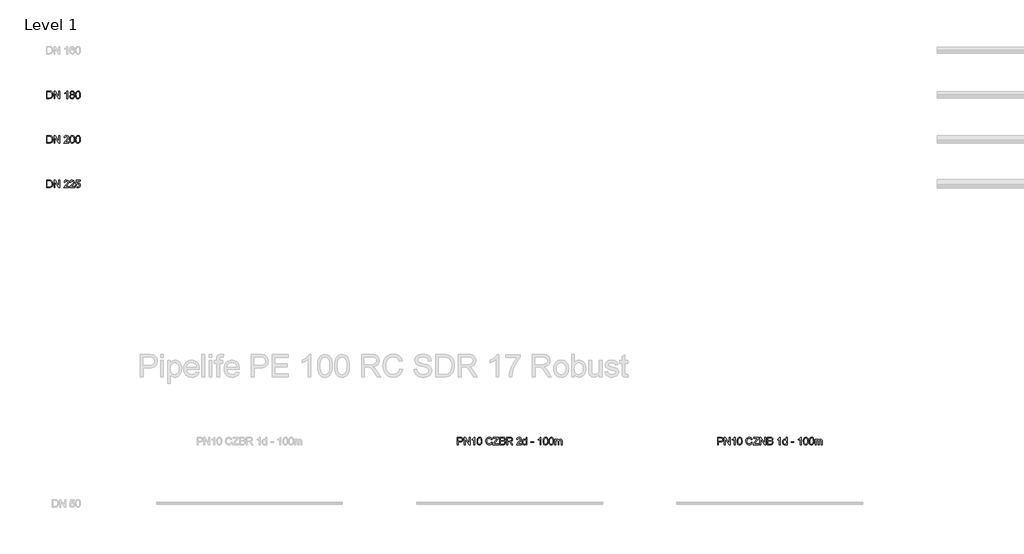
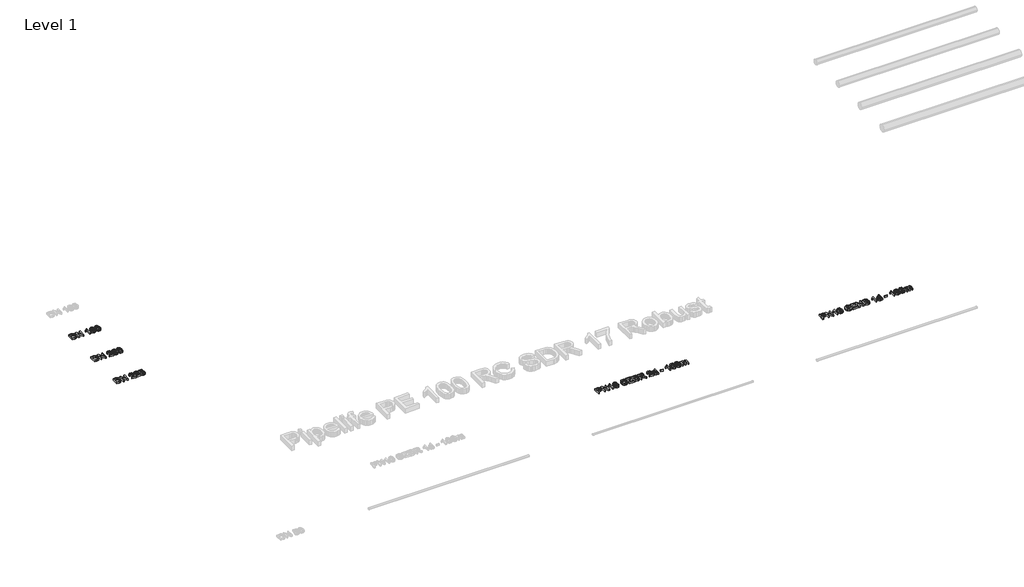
# One storey, part 5 of 13: 5 proxies.
"""IFC4 building model written with IfcOpenShell, lengths in millimetres."""

from ifc_helpers import new_model, si_unit, origin, origin_with_axes, place, context, project, spatial, polyline, outline, extrude, element, save

model = new_model("IFC4")

# Units and contexts
model_context = context("Model", 3, world=origin())
ifc_project = project(units=[si_unit("LENGTHUNIT", "METRE", prefix="MILLI")], contexts=[model_context])

# Site, building, storey
site = spatial("IfcSite", under=ifc_project)
building = spatial("IfcBuilding", under=site)
storey = spatial("IfcBuildingStorey", under=building, Name="Level 1", Elevation=0.0)

# Proxies
placement = place(None, origin())
element("IfcBuildingElementProxy", 1, Name="200mm Arial", ObjectType="200mm Arial", at=placement, inside=storey, context=model_context, shape_type="SweptSolid", body=[
    extrude(outline(polyline([(-19491.3116028, -12713.949573), (-19491.3116028, -12513.0369527), (-19422.0026349, -12513.0369527), (-19386.1464031, -12515.9309577), (-19370.1312736, -12521.5105013), (-19356.6177416, -12530.302881), (-19342.724065, -12545.606772), (-19332.8280393, -12564.6385338), (-19326.9051392, -12587.0302846), (-19324.9308391, -12612.4141423), (-19330.2773908, -12652.9547382), (-19344.0116519, -12682.2136195), (-19362.3567008, -12700.436041), (-19386.3671323, -12710.5160077), (-19418.6671715, -12713.949573), (-19491.3116028, -12713.949573)]), holes=[polyline([(-19466.1975253, -12688.8354954), (-19421.7573803, -12688.8354954), (-19389.4328156, -12685.2057264), (-19370.7934612, -12674.9540815), (-19362.0685265, -12664.0831685), (-19355.5140957, -12650.0116822), (-19351.4122114, -12632.6783089), (-19350.0449167, -12612.0217348), (-19352.7243239, -12584.6513144), (-19360.7625455, -12564.4423301), (-19372.6390025, -12550.5609162), (-19386.8331162, -12542.1732067), (-19422.4440933, -12538.1510302), (-19466.1975253, -12538.1510302), (-19466.1975253, -12688.8354954)])]), origin_with_axes(), (0.0, 0.0, 1.0), 50.0),
    extrude(outline(polyline([(-19290.3989825, -12713.949573), (-19290.3989825, -12513.0369527), (-19263.5190714, -12513.0369527), (-19158.5500754, -12672.2072292), (-19158.5500754, -12513.0369527), (-19133.4359979, -12513.0369527), (-19133.4359979, -12713.949573), (-19160.315909, -12713.949573), (-19265.284905, -12554.7302454), (-19265.284905, -12713.949573), (-19290.3989825, -12713.949573)])), origin_with_axes(), (0.0, 0.0, 1.0), 50.0),
    extrude(outline(polyline([(-18891.7130016, -12688.8354954), (-18891.7130016, -12713.949573), (-19023.5619087, -12713.949573), (-19020.8641074, -12696.6345937), (-19005.6092673, -12669.9754118), (-18974.1676195, -12640.8636832), (-18930.806595, -12599.0232377), (-18922.6764029, -12584.6022634), (-18919.9663388, -12570.5736967), (-18922.5231187, -12557.9982638), (-18930.1934583, -12547.5442838), (-18941.9840762, -12540.4993436), (-18956.9016912, -12538.1510302), (-18972.5673328, -12540.4441613), (-18984.7380955, -12547.3235546), (-18992.5923761, -12558.2496499), (-18995.3085714, -12572.6828868), (-19020.422649, -12569.5436271), (-19014.334202, -12545.2511527), (-19001.1701579, -12527.5069778), (-18981.6172299, -12516.6544589), (-18956.3621309, -12513.0369527), (-18930.9230909, -12517.0591291), (-18911.4069511, -12529.1256586), (-18898.9909337, -12547.1518763), (-18894.8522613, -12569.0531178), (-18899.3158962, -12592.8673456), (-18914.1538033, -12617.4909138), (-18950.1326624, -12651.9001431), (-18979.0236618, -12676.0577275), (-18990.3544272, -12688.8354954), (-18891.7130016, -12688.8354954)])), origin_with_axes(), (0.0, 0.0, 1.0), 50.0),
    extrude(outline(polyline([(-18866.5989241, -12615.1119436), (-18864.7533827, -12582.9529258), (-18859.2167587, -12557.3054194), (-18850.0442343, -12537.7770168), (-18837.2909918, -12523.9753106), (-18820.8650607, -12515.7715422), (-18800.6744705, -12513.0369527), (-18785.1989013, -12514.6556334), (-18771.3420128, -12519.5116758), (-18759.7537299, -12527.4150073), (-18751.0839776, -12538.1755557), (-18739.3117537, -12567.9004209), (-18734.750017, -12615.1119436), (-18736.5771642, -12647.0870203), (-18742.058606, -12672.6732131), (-18751.1759481, -12692.2200098), (-18763.9107965, -12706.0768983), (-18780.3735158, -12714.335849), (-18800.6744705, -12717.0888326), (-18826.7695667, -12712.3063667), (-18846.5861435, -12697.9589689), (-18855.341735, -12682.8298218), (-18861.5957289, -12663.9789353), (-18866.5989241, -12615.1119436)]), holes=[polyline([(-18841.4848465, -12615.0628927), (-18838.5417906, -12654.5672876), (-18829.7126227, -12677.4311536), (-18816.5669727, -12688.3388547), (-18800.6744705, -12691.9747551), (-18784.7819683, -12688.326592), (-18771.6363184, -12677.3821026), (-18762.8071505, -12654.5059739), (-18759.8640945, -12615.0628927), (-18762.7090486, -12576.4475459), (-18771.2439109, -12553.4058703), (-18784.3650354, -12541.9647402), (-18800.9687761, -12538.1510302), (-18816.6896001, -12541.5110191), (-18829.3202152, -12551.5909857), (-18838.4436887, -12576.0674012), (-18841.4848465, -12615.0628927)])]), origin_with_axes(), (0.0, 0.0, 1.0), 50.0),
    extrude(outline(polyline([(-18712.7751992, -12615.1119436), (-18710.9296578, -12582.9529258), (-18705.3930338, -12557.3054194), (-18696.2205094, -12537.7770168), (-18683.4672669, -12523.9753106), (-18667.0413358, -12515.7715422), (-18646.8507456, -12513.0369527), (-18631.3751764, -12514.6556334), (-18617.5182879, -12519.5116758), (-18605.930005, -12527.4150073), (-18597.2602527, -12538.1755557), (-18585.4880288, -12567.9004209), (-18580.9262921, -12615.1119436), (-18582.7534393, -12647.0870203), (-18588.2348811, -12672.6732131), (-18597.3522232, -12692.2200098), (-18610.0870716, -12706.0768983), (-18626.5497909, -12714.335849), (-18646.8507456, -12717.0888326), (-18672.9458418, -12712.3063667), (-18692.7624186, -12697.9589689), (-18701.5180101, -12682.8298218), (-18707.772004, -12663.9789353), (-18712.7751992, -12615.1119436)]), holes=[polyline([(-18687.6611216, -12615.0628927), (-18684.7180657, -12654.5672876), (-18675.8888978, -12677.4311536), (-18662.7432478, -12688.3388547), (-18646.8507456, -12691.9747551), (-18630.9582434, -12688.326592), (-18617.8125935, -12677.3821026), (-18608.9834256, -12654.5059739), (-18606.0403696, -12615.0628927), (-18608.8853237, -12576.4475459), (-18617.420186, -12553.4058703), (-18630.5413105, -12541.9647402), (-18647.1450512, -12538.1510302), (-18662.8658751, -12541.5110191), (-18675.4964903, -12551.5909857), (-18684.6199638, -12576.0674012), (-18687.6611216, -12615.0628927)])]), origin_with_axes(), (0.0, 0.0, 1.0), 50.0),
])
element("IfcBuildingElementProxy", 2, Name="200mm Arial", ObjectType="200mm Arial", at=placement, inside=storey, context=model_context, shape_type="SweptSolid", body=[
    extrude(outline(polyline([(-19491.3116028, -11513.949573), (-19491.3116028, -11313.0369527), (-19422.0026349, -11313.0369527), (-19386.1464031, -11315.9309577), (-19370.1312736, -11321.5105013), (-19356.6177416, -11330.302881), (-19342.724065, -11345.606772), (-19332.8280393, -11364.6385338), (-19326.9051392, -11387.0302846), (-19324.9308391, -11412.4141423), (-19330.2773908, -11452.9547382), (-19344.0116519, -11482.2136195), (-19362.3567008, -11500.436041), (-19386.3671323, -11510.5160077), (-19418.6671715, -11513.949573), (-19491.3116028, -11513.949573)]), holes=[polyline([(-19466.1975253, -11488.8354954), (-19421.7573803, -11488.8354954), (-19389.4328156, -11485.2057264), (-19370.7934612, -11474.9540815), (-19362.0685265, -11464.0831685), (-19355.5140957, -11450.0116822), (-19351.4122114, -11432.6783089), (-19350.0449167, -11412.0217348), (-19352.7243239, -11384.6513144), (-19360.7625455, -11364.4423301), (-19372.6390025, -11350.5609162), (-19386.8331162, -11342.1732067), (-19422.4440933, -11338.1510302), (-19466.1975253, -11338.1510302), (-19466.1975253, -11488.8354954)])]), origin_with_axes(), (0.0, 0.0, 1.0), 50.0),
    extrude(outline(polyline([(-19290.3989825, -11513.949573), (-19290.3989825, -11313.0369527), (-19263.5190714, -11313.0369527), (-19158.5500754, -11472.2072292), (-19158.5500754, -11313.0369527), (-19133.4359979, -11313.0369527), (-19133.4359979, -11513.949573), (-19160.315909, -11513.949573), (-19265.284905, -11354.7302454), (-19265.284905, -11513.949573), (-19290.3989825, -11513.949573)])), origin_with_axes(), (0.0, 0.0, 1.0), 50.0),
    extrude(outline(polyline([(-18926.2448582, -11513.949573), (-18951.3589358, -11513.949573), (-18951.3589358, -11357.3789958), (-18975.1486381, -11374.3260931), (-19001.5870908, -11387.0057592), (-19001.5870908, -11363.2651077), (-18964.7743658, -11339.769711), (-18951.3037535, -11326.1948653), (-18942.431666, -11313.0369527), (-18926.2448582, -11313.0369527), (-18926.2448582, -11513.949573)])), origin_with_axes(), (0.0, 0.0, 1.0), 50.0),
    extrude(outline(polyline([(-18830.0069283, -11403.2906688), (-18843.4530152, -11396.6687929), (-18852.8891884, -11387.6924722), (-18858.4626006, -11376.5456478), (-18860.3204047, -11363.4122605), (-18856.2737027, -11343.7796247), (-18844.1335969, -11327.5560287), (-18825.2612505, -11316.6667217), (-18801.0178271, -11313.0369527), (-18776.6272508, -11316.7525608), (-18757.5096498, -11327.8993853), (-18745.1488147, -11344.3804986), (-18741.0285364, -11364.0989736), (-18742.861815, -11376.8092965), (-18748.3616508, -11387.7660486), (-18757.5893575, -11396.687187), (-18770.6062488, -11403.2906688), (-18755.1490736, -11411.255314), (-18743.8980159, -11422.9846183), (-18737.0370167, -11437.9144959), (-18734.750017, -11455.4808612), (-18739.2872283, -11479.4912927), (-18752.8988621, -11499.332395), (-18773.9171868, -11512.6497232), (-18800.6744705, -11517.0888326), (-18827.4317543, -11512.6313291), (-18848.450079, -11499.2588186), (-18862.0617128, -11479.227644), (-18866.5989241, -11454.7941481), (-18864.2199538, -11436.5472012), (-18857.0830431, -11421.5376158), (-18845.5560739, -11410.2804267), (-18830.0069283, -11403.2906688)]), holes=[polyline([(-18835.2063271, -11364.1480245), (-18832.9806411, -11375.110908), (-18826.3035829, -11383.8664995), (-18815.3713562, -11389.6054586), (-18800.3801649, -11391.518445), (-18785.7384615, -11389.6177213), (-18774.9717818, -11383.9155504), (-18768.3499059, -11375.4542645), (-18766.1426139, -11365.276196), (-18768.4234823, -11354.7118513), (-18775.2660874, -11345.974654), (-18786.1799199, -11340.1069361), (-18800.6744705, -11338.1510302), (-18815.2609916, -11340.0640166), (-18826.1564301, -11345.8029757), (-18832.9438529, -11354.2152106), (-18835.2063271, -11364.1480245)]), polyline([(-18841.4848465, -11453.9112313), (-18837.2909918, -11472.8203659), (-18831.4845876, -11480.9321639), (-18822.4530846, -11486.97156), (-18800.4782668, -11491.9747551), (-18783.3840168, -11489.3443988), (-18770.5571979, -11481.45333), (-18762.5373704, -11469.5032966), (-18759.8640945, -11454.6960463), (-18762.6232095, -11439.6374099), (-18770.9005544, -11427.4237277), (-18784.0216789, -11419.3303238), (-18801.3121327, -11416.6325225), (-18818.1672594, -11419.2935356), (-18830.8653196, -11427.2765749), (-18838.8299648, -11439.2572652), (-18841.4848465, -11453.9112313)])]), origin_with_axes(), (0.0, 0.0, 1.0), 50.0),
    extrude(outline(polyline([(-18712.7751992, -11415.1119436), (-18710.9296578, -11382.9529258), (-18705.3930338, -11357.3054194), (-18696.2205094, -11337.7770168), (-18683.4672669, -11323.9753106), (-18667.0413358, -11315.7715422), (-18646.8507456, -11313.0369527), (-18631.3751764, -11314.6556334), (-18617.5182879, -11319.5116758), (-18605.930005, -11327.4150073), (-18597.2602527, -11338.1755557), (-18585.4880288, -11367.9004209), (-18580.9262921, -11415.1119436), (-18582.7534393, -11447.0870203), (-18588.2348811, -11472.6732131), (-18597.3522232, -11492.2200098), (-18610.0870716, -11506.0768983), (-18626.5497909, -11514.335849), (-18646.8507456, -11517.0888326), (-18672.9458418, -11512.3063667), (-18692.7624186, -11497.9589689), (-18701.5180101, -11482.8298218), (-18707.772004, -11463.9789353), (-18712.7751992, -11415.1119436)]), holes=[polyline([(-18687.6611216, -11415.0628927), (-18684.7180657, -11454.5672876), (-18675.8888978, -11477.4311536), (-18662.7432478, -11488.3388547), (-18646.8507456, -11491.9747551), (-18630.9582434, -11488.326592), (-18617.8125935, -11477.3821026), (-18608.9834256, -11454.5059739), (-18606.0403696, -11415.0628927), (-18608.8853237, -11376.4475459), (-18617.420186, -11353.4058703), (-18630.5413105, -11341.9647402), (-18647.1450512, -11338.1510302), (-18662.8658751, -11341.5110191), (-18675.4964903, -11351.5909857), (-18684.6199638, -11376.0674012), (-18687.6611216, -11415.0628927)])]), origin_with_axes(), (0.0, 0.0, 1.0), 50.0),
])
element("IfcBuildingElementProxy", 3, Name="200mm Arial", ObjectType="200mm Arial", at=placement, inside=storey, context=model_context, shape_type="SweptSolid", body=[
    extrude(outline(polyline([(-19491.3116028, -13913.949573), (-19491.3116028, -13713.0369527), (-19422.0026349, -13713.0369527), (-19386.1464031, -13715.9309577), (-19370.1312736, -13721.5105013), (-19356.6177416, -13730.302881), (-19342.724065, -13745.606772), (-19332.8280393, -13764.6385338), (-19326.9051392, -13787.0302846), (-19324.9308391, -13812.4141423), (-19330.2773908, -13852.9547382), (-19344.0116519, -13882.2136195), (-19362.3567008, -13900.436041), (-19386.3671323, -13910.5160077), (-19418.6671715, -13913.949573), (-19491.3116028, -13913.949573)]), holes=[polyline([(-19466.1975253, -13888.8354954), (-19421.7573803, -13888.8354954), (-19389.4328156, -13885.2057264), (-19370.7934612, -13874.9540815), (-19362.0685265, -13864.0831685), (-19355.5140957, -13850.0116822), (-19351.4122114, -13832.6783089), (-19350.0449167, -13812.0217348), (-19352.7243239, -13784.6513144), (-19360.7625455, -13764.4423301), (-19372.6390025, -13750.5609162), (-19386.8331162, -13742.1732067), (-19422.4440933, -13738.1510302), (-19466.1975253, -13738.1510302), (-19466.1975253, -13888.8354954)])]), origin_with_axes(), (0.0, 0.0, 1.0), 50.0),
    extrude(outline(polyline([(-19290.3989825, -13913.949573), (-19290.3989825, -13713.0369527), (-19263.5190714, -13713.0369527), (-19158.5500754, -13872.2072292), (-19158.5500754, -13713.0369527), (-19133.4359979, -13713.0369527), (-19133.4359979, -13913.949573), (-19160.315909, -13913.949573), (-19265.284905, -13754.7302454), (-19265.284905, -13913.949573), (-19290.3989825, -13913.949573)])), origin_with_axes(), (0.0, 0.0, 1.0), 50.0),
    extrude(outline(polyline([(-18891.7130016, -13888.8354954), (-18891.7130016, -13913.949573), (-19023.5619087, -13913.949573), (-19020.8641074, -13896.6345937), (-19005.6092673, -13869.9754118), (-18974.1676195, -13840.8636832), (-18930.806595, -13799.0232377), (-18922.6764029, -13784.6022634), (-18919.9663388, -13770.5736967), (-18922.5231187, -13757.9982638), (-18930.1934583, -13747.5442838), (-18941.9840762, -13740.4993436), (-18956.9016912, -13738.1510302), (-18972.5673328, -13740.4441613), (-18984.7380955, -13747.3235546), (-18992.5923761, -13758.2496499), (-18995.3085714, -13772.6828868), (-19020.422649, -13769.5436271), (-19014.334202, -13745.2511527), (-19001.1701579, -13727.5069778), (-18981.6172299, -13716.6544589), (-18956.3621309, -13713.0369527), (-18930.9230909, -13717.0591291), (-18911.4069511, -13729.1256586), (-18898.9909337, -13747.1518763), (-18894.8522613, -13769.0531178), (-18899.3158962, -13792.8673456), (-18914.1538033, -13817.4909138), (-18950.1326624, -13851.9001431), (-18979.0236618, -13876.0577275), (-18990.3544272, -13888.8354954), (-18891.7130016, -13888.8354954)])), origin_with_axes(), (0.0, 0.0, 1.0), 50.0),
    extrude(outline(polyline([(-18737.8892767, -13888.8354954), (-18737.8892767, -13913.949573), (-18869.7381838, -13913.949573), (-18867.0403825, -13896.6345937), (-18851.7855424, -13869.9754118), (-18820.3438945, -13840.8636832), (-18776.98287, -13799.0232377), (-18768.852678, -13784.6022634), (-18766.1426139, -13770.5736967), (-18768.6993938, -13757.9982638), (-18776.3697334, -13747.5442838), (-18788.1603513, -13740.4993436), (-18803.0779662, -13738.1510302), (-18818.7436079, -13740.4441613), (-18830.9143705, -13747.3235546), (-18838.7686511, -13758.2496499), (-18841.4848465, -13772.6828868), (-18866.5989241, -13769.5436271), (-18860.510477, -13745.2511527), (-18847.346433, -13727.5069778), (-18827.7935049, -13716.6544589), (-18802.538406, -13713.0369527), (-18777.099366, -13717.0591291), (-18757.5832262, -13729.1256586), (-18745.1672088, -13747.1518763), (-18741.0285364, -13769.0531178), (-18745.4921713, -13792.8673456), (-18760.3300784, -13817.4909138), (-18796.3089375, -13851.9001431), (-18825.1999369, -13876.0577275), (-18836.5307023, -13888.8354954), (-18737.8892767, -13888.8354954)])), origin_with_axes(), (0.0, 0.0, 1.0), 50.0),
    extrude(outline(polyline([(-18712.7751992, -13860.5821582), (-18687.6611216, -13857.4428985), (-18683.0503339, -13872.5199289), (-18675.005981, -13883.3172655), (-18663.5648509, -13889.8103827), (-18648.763732, -13891.9747551), (-18630.7620397, -13888.9642541), (-18617.2730332, -13879.9327511), (-18608.8485355, -13865.9225785), (-18606.0403696, -13847.9760685), (-18608.6707259, -13831.0780222), (-18616.5617947, -13818.1531014), (-18629.7748897, -13809.9493329), (-18648.3713245, -13807.2147434), (-18670.4197188, -13811.5802764), (-18684.5218619, -13822.9110419), (-18709.6359395, -13819.7717822), (-18687.6611216, -13716.1762123), (-18590.3440712, -13716.1762123), (-18590.3440712, -13741.2902899), (-18667.3540355, -13741.2902899), (-18678.0961897, -13796.619742), (-18660.1558111, -13785.7304349), (-18641.3570412, -13782.1006659), (-18617.8923012, -13786.601089), (-18598.4129496, -13800.1023582), (-18585.2979565, -13820.6792244), (-18580.9262921, -13846.4064386), (-18584.8626294, -13871.5205162), (-18596.6716415, -13893.0048247), (-18607.1072274, -13903.5415782), (-18619.2841214, -13911.0678307), (-18633.2023236, -13915.5835821), (-18648.8618339, -13917.0888326), (-18673.5283216, -13913.2199403), (-18693.1793515, -13901.6132634), (-18706.6499639, -13883.6177025), (-18712.7751992, -13860.5821582)])), origin_with_axes(), (0.0, 0.0, 1.0), 50.0),
])
element("IfcBuildingElementProxy", 4, Name="200mm Arial", ObjectType="200mm Arial", at=placement, inside=storey, context=model_context, shape_type="SweptSolid", body=[
    extrude(outline(polyline([(-1440.6250972, -20838.0508707), (-1440.6250972, -20637.1382504), (-1366.1657813, -20637.1382504), (-1336.1466105, -20639.0512367), (-1311.7437715, -20648.4444903), (-1302.8716841, -20656.7708862), (-1295.9248457, -20667.8686597), (-1291.4366854, -20680.9591274), (-1289.9406319, -20695.2636056), (-1293.9812025, -20718.9429434), (-1306.1029143, -20738.673681), (-1315.8104004, -20746.4421225), (-1328.7705765, -20751.9910093), (-1364.4489987, -20756.4301187), (-1415.5110196, -20756.4301187), (-1415.5110196, -20838.0508707), (-1440.6250972, -20838.0508707)]), holes=[polyline([(-1415.5110196, -20731.3160411), (-1362.9774707, -20731.3160411), (-1340.7083473, -20729.0106473), (-1325.9930675, -20722.0944658), (-1317.789299, -20710.9966923), (-1315.0547095, -20696.1465224), (-1316.6672589, -20684.8648079), (-1321.5049071, -20675.3489269), (-1328.9667803, -20668.1874908), (-1338.4520044, -20663.9691105), (-1363.5660819, -20662.2523279), (-1415.5110196, -20662.2523279), (-1415.5110196, -20731.3160411)])]), origin_with_axes(), (0.0, 0.0, 1.0), 50.0),
    extrude(outline(polyline([(-1255.4087753, -20838.0508707), (-1255.4087753, -20637.1382504), (-1228.5288642, -20637.1382504), (-1123.5598682, -20796.3085269), (-1123.5598682, -20637.1382504), (-1098.4457907, -20637.1382504), (-1098.4457907, -20838.0508707), (-1125.3257018, -20838.0508707), (-1230.2946978, -20678.8315431), (-1230.2946978, -20838.0508707), (-1255.4087753, -20838.0508707)])), origin_with_axes(), (0.0, 0.0, 1.0), 50.0),
    extrude(outline(polyline([(-969.7361433, -20838.0508707), (-994.8502209, -20838.0508707), (-994.8502209, -20681.4802935), (-1018.6399232, -20698.4273908), (-1045.0783759, -20711.1070569), (-1045.0783759, -20687.3664054), (-1008.265651, -20663.8710087), (-994.7950386, -20650.2961631), (-985.9229511, -20637.1382504), (-969.7361433, -20637.1382504), (-969.7361433, -20838.0508707)])), origin_with_axes(), (0.0, 0.0, 1.0), 50.0),
    extrude(outline(polyline([(-910.0902092, -20739.2132413), (-908.2446678, -20707.0542235), (-902.7080438, -20681.4067171), (-893.5355194, -20661.8783145), (-880.7822769, -20648.0766083), (-864.3563458, -20639.8728399), (-844.1657556, -20637.1382504), (-828.6901864, -20638.7569311), (-814.8332979, -20643.6129735), (-803.245015, -20651.516305), (-794.5752627, -20662.2768534), (-782.8030388, -20692.0017186), (-778.2413021, -20739.2132413), (-780.0684494, -20771.188318), (-785.5498911, -20796.7745108), (-794.6672332, -20816.3213075), (-807.4020816, -20830.178196), (-823.8648009, -20838.4371468), (-844.1657556, -20841.1901304), (-870.2608518, -20836.4076644), (-890.0774286, -20822.0602666), (-898.8330201, -20806.9311195), (-905.087014, -20788.080233), (-910.0902092, -20739.2132413)]), holes=[polyline([(-884.9761316, -20739.1641904), (-882.0330757, -20778.6685853), (-873.2039078, -20801.5324513), (-860.0582578, -20812.4401524), (-844.1657556, -20816.0760528), (-828.2732535, -20812.4278897), (-815.1276035, -20801.4834003), (-806.2984356, -20778.6072716), (-803.3553796, -20739.1641904), (-806.2003337, -20700.5488436), (-814.735196, -20677.507168), (-827.8563205, -20666.0660379), (-844.4600612, -20662.2523279), (-860.1808852, -20665.6123168), (-872.8115003, -20675.6922835), (-881.9349738, -20700.1686989), (-884.9761316, -20739.1641904)])]), origin_with_axes(), (0.0, 0.0, 1.0), 50.0),
    extrude(outline(polyline([(-527.1005267, -20766.6327127), (-501.9864492, -20773.1074358), (-513.574732, -20802.3724485), (-531.7603653, -20823.7525238), (-555.6481696, -20836.8307287), (-584.3429652, -20841.1901304), (-613.4730878, -20837.8914551), (-636.606734, -20827.9954295), (-654.3386461, -20811.8454099), (-667.2635669, -20789.7847529), (-675.1546357, -20763.8490722), (-677.784992, -20736.0739816), (-674.8112792, -20706.778312), (-665.8901408, -20681.4802935), (-651.4875607, -20660.983135), (-632.0695227, -20646.0900456), (-609.0401098, -20637.0217544), (-583.8034049, -20633.9989907), (-556.2674376, -20637.9108025), (-533.5016734, -20649.6462382), (-516.217351, -20668.4817963), (-505.1257089, -20693.6939758), (-530.2397864, -20699.6781895), (-538.946327, -20681.3637975), (-550.8411782, -20668.8006274), (-566.0714928, -20661.534958), (-584.7844236, -20659.1130682), (-606.3545712, -20661.7986068), (-624.0742207, -20669.8552225), (-637.5203076, -20682.4367867), (-646.2697677, -20698.6971709), (-651.0706277, -20717.0790079), (-652.6709144, -20736.0249307), (-650.7763221, -20759.2260218), (-645.0925453, -20779.2878533), (-635.4049861, -20795.4440043), (-621.4990467, -20806.9280539), (-604.8278609, -20813.7890531), (-586.8445628, -20816.0760528), (-565.8814204, -20812.9613186), (-548.413157, -20803.6171159), (-535.2245875, -20788.1415466), (-527.1005267, -20766.6327127)])), origin_with_axes(), (0.0, 0.0, 1.0), 50.0),
    extrude(outline(polyline([(-483.150891, -20838.0508707), (-483.150891, -20812.0048254), (-380.3891871, -20686.189183), (-360.8669158, -20662.2523279), (-470.5938523, -20662.2523279), (-470.5938523, -20637.1382504), (-329.3271661, -20637.1382504), (-329.3271661, -20662.2523279), (-441.8009548, -20799.938296), (-452.3959562, -20812.9367931), (-326.1879064, -20812.9367931), (-326.1879064, -20838.0508707), (-483.150891, -20838.0508707)])), origin_with_axes(), (0.0, 0.0, 1.0), 50.0),
    extrude(outline(polyline([(-297.9345692, -20838.0508707), (-297.9345692, -20637.1382504), (-271.0546581, -20637.1382504), (-166.0856621, -20796.3085269), (-166.0856621, -20637.1382504), (-140.9715846, -20637.1382504), (-140.9715846, -20838.0508707), (-167.8514957, -20838.0508707), (-272.8204917, -20678.8315431), (-272.8204917, -20838.0508707), (-297.9345692, -20838.0508707)])), origin_with_axes(), (0.0, 0.0, 1.0), 50.0),
    extrude(outline(polyline([(-97.0219489, -20838.0508707), (-97.0219489, -20637.1382504), (-20.3553411, -20637.1382504), (0.7304286, -20638.6159097), (17.1931479, -20643.0488877), (29.8115003, -20650.5475491), (39.3641694, -20661.2222583), (45.3790401, -20673.7792971), (47.3839969, -20686.924947), (45.6978711, -20699.0221333), (40.6394937, -20710.3958183), (32.1720764, -20720.3470263), (20.2588312, -20728.1767814), (34.489733, -20735.6079977), (45.0050267, -20746.9142377), (51.4981439, -20761.3474747), (53.6625163, -20778.1596818), (47.7518789, -20805.1622203), (33.1101755, -20824.3901859), (11.257985, -20834.5927799), (-20.9439523, -20838.0508707), (-97.0219489, -20838.0508707)]), holes=[polyline([(-71.9078714, -20812.9367931), (-20.404392, -20812.9367931), (-1.7650376, -20811.9557745), (14.0048372, -20806.4865955), (24.4526859, -20795.3275083), (28.5484388, -20778.4049365), (23.7414474, -20758.8826653), (17.4445339, -20751.8254624), (8.1677762, -20747.2330688), (-22.8569387, -20743.8730799), (-71.9078714, -20743.8730799), (-71.9078714, -20812.9367931)]), polyline([(-71.9078714, -20718.7590024), (-26.0452493, -20718.7590024), (0.7365599, -20716.6007613), (16.8497913, -20707.3056096), (22.2699194, -20690.9471235), (17.2176733, -20674.564112), (2.7476482, -20664.8765528), (-29.5278655, -20662.2523279), (-71.9078714, -20662.2523279), (-71.9078714, -20718.7590024)])]), origin_with_axes(), (0.0, 0.0, 1.0), 50.0),
    extrude(outline(polyline([(251.4358769, -20838.0508707), (226.3217994, -20838.0508707), (226.3217994, -20681.4802935), (202.532097, -20698.4273908), (176.0936443, -20711.1070569), (176.0936443, -20687.3664054), (212.9063693, -20663.8710087), (226.3769817, -20650.2961631), (235.2490691, -20637.1382504), (251.4358769, -20637.1382504), (251.4358769, -20838.0508707)])), origin_with_axes(), (0.0, 0.0, 1.0), 50.0),
    extrude(outline(polyline([(408.3988615, -20838.0508707), (408.3988615, -20814.3592702), (400.8848718, -20826.0977715), (391.7828581, -20834.4824153), (381.0928204, -20839.5132016), (368.8147589, -20841.1901304), (352.5789001, -20838.7621092), (337.7164675, -20831.4780457), (325.1349033, -20819.8468433), (315.7416497, -20804.3774054), (309.892326, -20785.6951314), (307.9425514, -20764.4254207), (309.7390418, -20743.4193588), (315.128513, -20724.4489105), (324.1048337, -20708.5931966), (336.6618725, -20696.9313373), (351.8492675, -20689.7576384), (368.716657, -20687.3664054), (381.0039156, -20689.0770567), (391.8686972, -20694.2090105), (408.3988615, -20711.9899736), (408.3988615, -20637.1382504), (433.5129391, -20637.1382504), (433.5129391, -20838.0508707), (408.3988615, -20838.0508707)]), holes=[polyline([(333.0566289, -20764.3273188), (335.8893203, -20787.044032), (344.3873944, -20803.200183), (356.7359667, -20812.8570854), (371.1201527, -20816.0760528), (385.4982073, -20813.0042382), (397.5340799, -20803.7887942), (405.6826661, -20788.2580426), (408.3988615, -20766.2403052), (405.6336152, -20742.16856), (397.3378762, -20725.4789801), (384.9954353, -20715.7301073), (370.0900831, -20712.480483), (355.5587443, -20715.6013486), (343.6516304, -20724.9639453), (335.7053793, -20741.0465199), (333.0566289, -20764.3273188)])]), origin_with_axes(), (0.0, 0.0, 1.0), 50.0),
    extrude(outline(polyline([(537.1085089, -20778.4049365), (537.1085089, -20753.290859), (615.5900012, -20753.290859), (615.5900012, -20778.4049365), (537.1085089, -20778.4049365)])), origin_with_axes(), (0.0, 0.0, 1.0), 50.0),
    extrude(outline(polyline([(810.2241021, -20838.0508707), (785.1100246, -20838.0508707), (785.1100246, -20681.4802935), (761.3203222, -20698.4273908), (734.8818695, -20711.1070569), (734.8818695, -20687.3664054), (771.6945945, -20663.8710087), (785.1652069, -20650.2961631), (794.0372943, -20637.1382504), (810.2241021, -20637.1382504), (810.2241021, -20838.0508707)])), origin_with_axes(), (0.0, 0.0, 1.0), 50.0),
    extrude(outline(polyline([(869.8700363, -20739.2132413), (871.7155776, -20707.0542235), (877.2522017, -20681.4067171), (886.4247261, -20661.8783145), (899.1779686, -20648.0766083), (915.6038997, -20639.8728399), (935.7944898, -20637.1382504), (951.2700591, -20638.7569311), (965.1269476, -20643.6129735), (976.7152304, -20651.516305), (985.3849828, -20662.2768534), (997.1572066, -20692.0017186), (1001.7189434, -20739.2132413), (999.8917961, -20771.188318), (994.4103544, -20796.7745108), (985.2930123, -20816.3213075), (972.5581639, -20830.178196), (956.0954446, -20838.4371468), (935.7944898, -20841.1901304), (909.6993936, -20836.4076644), (889.8828168, -20822.0602666), (881.1272253, -20806.9311195), (874.8732314, -20788.080233), (869.8700363, -20739.2132413)]), holes=[polyline([(894.9841138, -20739.1641904), (897.9271698, -20778.6685853), (906.7563377, -20801.5324513), (919.9019876, -20812.4401524), (935.7944898, -20816.0760528), (951.686992, -20812.4278897), (964.832642, -20801.4834003), (973.6618099, -20778.6072716), (976.6048658, -20739.1641904), (973.7599117, -20700.5488436), (965.2250494, -20677.507168), (952.1039249, -20666.0660379), (935.5001842, -20662.2523279), (919.7793603, -20665.6123168), (907.1487451, -20675.6922835), (898.0252716, -20700.1686989), (894.9841138, -20739.1641904)])]), origin_with_axes(), (0.0, 0.0, 1.0), 50.0),
    extrude(outline(polyline([(1023.6937612, -20739.2132413), (1025.5393025, -20707.0542235), (1031.0759266, -20681.4067171), (1040.248451, -20661.8783145), (1053.0016935, -20648.0766083), (1069.4276246, -20639.8728399), (1089.6182147, -20637.1382504), (1105.093784, -20638.7569311), (1118.9506725, -20643.6129735), (1130.5389553, -20651.516305), (1139.2087077, -20662.2768534), (1150.9809315, -20692.0017186), (1155.5426683, -20739.2132413), (1153.715521, -20771.188318), (1148.2340793, -20796.7745108), (1139.1167372, -20816.3213075), (1126.3818888, -20830.178196), (1109.9191695, -20838.4371468), (1089.6182147, -20841.1901304), (1063.5231185, -20836.4076644), (1043.7065417, -20822.0602666), (1034.9509503, -20806.9311195), (1028.6969563, -20788.080233), (1023.6937612, -20739.2132413)]), holes=[polyline([(1048.8078387, -20739.1641904), (1051.7508947, -20778.6685853), (1060.5800626, -20801.5324513), (1073.7257125, -20812.4401524), (1089.6182147, -20816.0760528), (1105.5107169, -20812.4278897), (1118.6563669, -20801.4834003), (1127.4855348, -20778.6072716), (1130.4285907, -20739.1641904), (1127.5836366, -20700.5488436), (1119.0487744, -20677.507168), (1105.9276499, -20666.0660379), (1089.3239091, -20662.2523279), (1073.6030852, -20665.6123168), (1060.97247, -20675.6922835), (1051.8489966, -20700.1686989), (1048.8078387, -20739.1641904)])]), origin_with_axes(), (0.0, 0.0, 1.0), 50.0),
    extrude(outline(polyline([(1183.7960055, -20838.0508707), (1183.7960055, -20690.5056651), (1208.910083, -20690.5056651), (1208.910083, -20714.7858768), (1216.4639267, -20703.632921), (1226.1760113, -20694.8957236), (1237.7152433, -20689.248735), (1250.7505286, -20687.3664054), (1264.7177817, -20689.2855232), (1275.9136571, -20695.0428764), (1284.2768411, -20704.2583204), (1289.7460201, -20716.5517104), (1298.9001504, -20703.7831395), (1309.3418677, -20694.6627317), (1321.071172, -20689.190487), (1334.0880633, -20687.3664054), (1352.966541, -20690.4014319), (1366.9276627, -20699.5065113), (1375.5544955, -20714.9268982), (1378.4301064, -20736.9078475), (1378.4301064, -20838.0508707), (1353.3160289, -20838.0508707), (1353.3160289, -20747.6990526), (1350.9861096, -20726.7297789), (1342.5493492, -20716.4045576), (1328.2019513, -20712.480483), (1314.5964489, -20714.9943433), (1303.5048067, -20722.5359242), (1296.1287727, -20735.6202605), (1293.6700947, -20754.762387), (1293.6700947, -20838.0508707), (1268.5560172, -20838.0508707), (1268.5560172, -20744.9031495), (1267.1028833, -20730.7029045), (1262.7434817, -20720.5738869), (1255.0731421, -20714.5038339), (1243.6871943, -20712.480483), (1225.0968908, -20717.8760856), (1217.7392509, -20724.5224869), (1212.7360558, -20733.6704859), (1208.910083, -20763.6406058), (1208.910083, -20838.0508707), (1183.7960055, -20838.0508707)])), origin_with_axes(), (0.0, 0.0, 1.0), 50.0),
])
element("IfcBuildingElementProxy", 5, Name="200mm Arial", ObjectType="200mm Arial", at=placement, inside=storey, context=model_context, shape_type="SweptSolid", body=[
    extrude(outline(polyline([(-8440.6250972, -20838.0508707), (-8440.6250972, -20637.1382504), (-8366.1657813, -20637.1382504), (-8336.1466105, -20639.0512367), (-8311.7437715, -20648.4444903), (-8302.8716841, -20656.7708862), (-8295.9248457, -20667.8686597), (-8291.4366854, -20680.9591274), (-8289.9406319, -20695.2636056), (-8293.9812025, -20718.9429434), (-8306.1029143, -20738.673681), (-8315.8104004, -20746.4421225), (-8328.7705765, -20751.9910093), (-8364.4489987, -20756.4301187), (-8415.5110196, -20756.4301187), (-8415.5110196, -20838.0508707), (-8440.6250972, -20838.0508707)]), holes=[polyline([(-8415.5110196, -20731.3160411), (-8362.9774707, -20731.3160411), (-8340.7083473, -20729.0106473), (-8325.9930675, -20722.0944658), (-8317.789299, -20710.9966923), (-8315.0547095, -20696.1465224), (-8316.6672589, -20684.8648079), (-8321.5049071, -20675.3489269), (-8328.9667803, -20668.1874908), (-8338.4520044, -20663.9691105), (-8363.5660819, -20662.2523279), (-8415.5110196, -20662.2523279), (-8415.5110196, -20731.3160411)])]), origin_with_axes(), (0.0, 0.0, 1.0), 50.0),
    extrude(outline(polyline([(-8255.4087753, -20838.0508707), (-8255.4087753, -20637.1382504), (-8228.5288642, -20637.1382504), (-8123.5598682, -20796.3085269), (-8123.5598682, -20637.1382504), (-8098.4457907, -20637.1382504), (-8098.4457907, -20838.0508707), (-8125.3257018, -20838.0508707), (-8230.2946978, -20678.8315431), (-8230.2946978, -20838.0508707), (-8255.4087753, -20838.0508707)])), origin_with_axes(), (0.0, 0.0, 1.0), 50.0),
    extrude(outline(polyline([(-7969.7361433, -20838.0508707), (-7994.8502209, -20838.0508707), (-7994.8502209, -20681.4802935), (-8018.6399232, -20698.4273908), (-8045.0783759, -20711.1070569), (-8045.0783759, -20687.3664054), (-8008.265651, -20663.8710087), (-7994.7950386, -20650.2961631), (-7985.9229511, -20637.1382504), (-7969.7361433, -20637.1382504), (-7969.7361433, -20838.0508707)])), origin_with_axes(), (0.0, 0.0, 1.0), 50.0),
    extrude(outline(polyline([(-7910.0902092, -20739.2132413), (-7908.2446678, -20707.0542235), (-7902.7080438, -20681.4067171), (-7893.5355194, -20661.8783145), (-7880.7822769, -20648.0766083), (-7864.3563458, -20639.8728399), (-7844.1657556, -20637.1382504), (-7828.6901864, -20638.7569311), (-7814.8332979, -20643.6129735), (-7803.245015, -20651.516305), (-7794.5752627, -20662.2768534), (-7782.8030388, -20692.0017186), (-7778.2413021, -20739.2132413), (-7780.0684494, -20771.188318), (-7785.5498911, -20796.7745108), (-7794.6672332, -20816.3213075), (-7807.4020816, -20830.178196), (-7823.8648009, -20838.4371468), (-7844.1657556, -20841.1901304), (-7870.2608518, -20836.4076644), (-7890.0774286, -20822.0602666), (-7898.8330201, -20806.9311195), (-7905.087014, -20788.080233), (-7910.0902092, -20739.2132413)]), holes=[polyline([(-7884.9761316, -20739.1641904), (-7882.0330757, -20778.6685853), (-7873.2039078, -20801.5324513), (-7860.0582578, -20812.4401524), (-7844.1657556, -20816.0760528), (-7828.2732535, -20812.4278897), (-7815.1276035, -20801.4834003), (-7806.2984356, -20778.6072716), (-7803.3553796, -20739.1641904), (-7806.2003337, -20700.5488436), (-7814.735196, -20677.507168), (-7827.8563205, -20666.0660379), (-7844.4600612, -20662.2523279), (-7860.1808852, -20665.6123168), (-7872.8115003, -20675.6922835), (-7881.9349738, -20700.1686989), (-7884.9761316, -20739.1641904)])]), origin_with_axes(), (0.0, 0.0, 1.0), 50.0),
    extrude(outline(polyline([(-7527.1005267, -20766.6327127), (-7501.9864492, -20773.1074358), (-7513.574732, -20802.3724485), (-7531.7603653, -20823.7525238), (-7555.6481696, -20836.8307287), (-7584.3429652, -20841.1901304), (-7613.4730878, -20837.8914551), (-7636.606734, -20827.9954295), (-7654.3386461, -20811.8454099), (-7667.2635669, -20789.7847529), (-7675.1546357, -20763.8490722), (-7677.784992, -20736.0739816), (-7674.8112792, -20706.778312), (-7665.8901408, -20681.4802935), (-7651.4875607, -20660.983135), (-7632.0695227, -20646.0900456), (-7609.0401098, -20637.0217544), (-7583.8034049, -20633.9989907), (-7556.2674376, -20637.9108025), (-7533.5016734, -20649.6462382), (-7516.217351, -20668.4817963), (-7505.1257089, -20693.6939758), (-7530.2397864, -20699.6781895), (-7538.946327, -20681.3637975), (-7550.8411782, -20668.8006274), (-7566.0714928, -20661.534958), (-7584.7844236, -20659.1130682), (-7606.3545712, -20661.7986068), (-7624.0742207, -20669.8552225), (-7637.5203076, -20682.4367867), (-7646.2697677, -20698.6971709), (-7651.0706277, -20717.0790079), (-7652.6709144, -20736.0249307), (-7650.7763221, -20759.2260218), (-7645.0925453, -20779.2878533), (-7635.4049861, -20795.4440043), (-7621.4990467, -20806.9280539), (-7604.8278609, -20813.7890531), (-7586.8445628, -20816.0760528), (-7565.8814204, -20812.9613186), (-7548.413157, -20803.6171159), (-7535.2245875, -20788.1415466), (-7527.1005267, -20766.6327127)])), origin_with_axes(), (0.0, 0.0, 1.0), 50.0),
    extrude(outline(polyline([(-7483.150891, -20838.0508707), (-7483.150891, -20812.0048254), (-7380.3891871, -20686.189183), (-7360.8669158, -20662.2523279), (-7470.5938523, -20662.2523279), (-7470.5938523, -20637.1382504), (-7329.3271661, -20637.1382504), (-7329.3271661, -20662.2523279), (-7441.8009548, -20799.938296), (-7452.3959562, -20812.9367931), (-7326.1879064, -20812.9367931), (-7326.1879064, -20838.0508707), (-7483.150891, -20838.0508707)])), origin_with_axes(), (0.0, 0.0, 1.0), 50.0),
    extrude(outline(polyline([(-7297.9345692, -20838.0508707), (-7297.9345692, -20637.1382504), (-7221.2679614, -20637.1382504), (-7200.1821917, -20638.6159097), (-7183.7194724, -20643.0488877), (-7171.10112, -20650.5475491), (-7161.5484509, -20661.2222583), (-7155.5335802, -20673.7792971), (-7153.5286234, -20686.924947), (-7155.2147492, -20699.0221333), (-7160.2731266, -20710.3958183), (-7168.7405439, -20720.3470263), (-7180.6537891, -20728.1767814), (-7166.4228873, -20735.6079977), (-7155.9075936, -20746.9142377), (-7149.4144764, -20761.3474747), (-7147.250104, -20778.1596818), (-7153.1607414, -20805.1622203), (-7167.8024448, -20824.3901859), (-7189.6546353, -20834.5927799), (-7221.8565726, -20838.0508707), (-7297.9345692, -20838.0508707)]), holes=[polyline([(-7272.8204917, -20718.7590024), (-7226.9578696, -20718.7590024), (-7200.1760604, -20716.6007613), (-7184.062829, -20707.3056096), (-7178.6427009, -20690.9471235), (-7183.694947, -20674.564112), (-7198.1649721, -20664.8765528), (-7230.4404858, -20662.2523279), (-7272.8204917, -20662.2523279), (-7272.8204917, -20718.7590024)]), polyline([(-7272.8204917, -20812.9367931), (-7221.3170123, -20812.9367931), (-7202.6776579, -20811.9557745), (-7186.9077831, -20806.4865955), (-7176.4599344, -20795.3275083), (-7172.3641815, -20778.4049365), (-7177.1711729, -20758.8826653), (-7183.4680864, -20751.8254624), (-7192.7448441, -20747.2330688), (-7223.769559, -20743.8730799), (-7272.8204917, -20743.8730799), (-7272.8204917, -20812.9367931)])]), origin_with_axes(), (0.0, 0.0, 1.0), 50.0),
    extrude(outline(polyline([(-7112.7182474, -20838.0508707), (-7112.7182474, -20637.1382504), (-7026.1433512, -20637.1382504), (-7002.874815, -20638.4932824), (-6985.9461118, -20642.5583784), (-6973.5730141, -20650.0631711), (-6963.971294, -20661.7372931), (-6957.8092706, -20676.2134496), (-6955.7552628, -20692.1243459), (-6959.1581712, -20711.9163972), (-6969.3668966, -20728.3239342), (-6986.6880072, -20740.3536755), (-7011.4280714, -20747.0123396), (-6997.1542499, -20757.7544938), (-6976.7981129, -20783.6043354), (-6943.2963259, -20838.0508707), (-6972.4816308, -20838.0508707), (-6998.6257779, -20796.4066288), (-7017.510387, -20768.8400046), (-7030.7786643, -20755.816982), (-7042.7225664, -20751.0345161), (-7057.2906934, -20750.1515993), (-7087.6041698, -20750.1515993), (-7087.6041698, -20838.0508707), (-7112.7182474, -20838.0508707)]), holes=[polyline([(-7087.6041698, -20725.0375217), (-7031.391801, -20725.0375217), (-7002.7215308, -20721.4813291), (-6993.291489, -20716.8582787), (-6986.4366212, -20710.1015127), (-6980.8693403, -20693.0563136), (-6983.524222, -20680.8058432), (-6991.4888672, -20670.934343), (-7005.1924715, -20664.4228317), (-7025.0642306, -20662.2523279), (-7087.6041698, -20662.2523279), (-7087.6041698, -20725.0375217)])]), origin_with_axes(), (0.0, 0.0, 1.0), 50.0),
    extrude(outline(polyline([(-6714.0322665, -20812.9367931), (-6714.0322665, -20838.0508707), (-6845.8811735, -20838.0508707), (-6843.1833722, -20820.7358914), (-6827.9285322, -20794.0767095), (-6796.4868843, -20764.9649809), (-6753.1258598, -20723.1245354), (-6744.9956677, -20708.7035612), (-6742.2856037, -20694.6749944), (-6744.8423836, -20682.0995615), (-6752.5127232, -20671.6455815), (-6764.3033411, -20664.6006413), (-6779.220956, -20662.2523279), (-6794.8865976, -20664.545459), (-6807.0573603, -20671.4248523), (-6814.9116409, -20682.3509476), (-6817.6278363, -20696.7841845), (-6842.7419138, -20693.6449248), (-6836.6534668, -20669.3524504), (-6823.4894228, -20651.6082755), (-6803.9364947, -20640.7557566), (-6778.6813957, -20637.1382504), (-6753.2423558, -20641.1604268), (-6733.7262159, -20653.2269563), (-6721.3101986, -20671.253174), (-6717.1715262, -20693.1544155), (-6721.635161, -20716.9686433), (-6736.4730682, -20741.5922115), (-6772.4519273, -20776.0014408), (-6801.3429266, -20800.1590252), (-6812.6736921, -20812.9367931), (-6714.0322665, -20812.9367931)])), origin_with_axes(), (0.0, 0.0, 1.0), 50.0),
    extrude(outline(polyline([(-6591.6011385, -20838.0508707), (-6591.6011385, -20814.3592702), (-6599.1151282, -20826.0977715), (-6608.2171419, -20834.4824153), (-6618.9071796, -20839.5132016), (-6631.1852411, -20841.1901304), (-6647.4210999, -20838.7621092), (-6662.2835325, -20831.4780457), (-6674.8650967, -20819.8468433), (-6684.2583503, -20804.3774054), (-6690.107674, -20785.6951314), (-6692.0574486, -20764.4254207), (-6690.2609582, -20743.4193588), (-6684.871487, -20724.4489105), (-6675.8951663, -20708.5931966), (-6663.3381275, -20696.9313373), (-6648.1507325, -20689.7576384), (-6631.283343, -20687.3664054), (-6618.9960844, -20689.0770567), (-6608.1313028, -20694.2090105), (-6591.6011385, -20711.9899736), (-6591.6011385, -20637.1382504), (-6566.4870609, -20637.1382504), (-6566.4870609, -20838.0508707), (-6591.6011385, -20838.0508707)]), holes=[polyline([(-6666.9433711, -20764.3273188), (-6664.1106797, -20787.044032), (-6655.6126056, -20803.200183), (-6643.2640333, -20812.8570854), (-6628.8798473, -20816.0760528), (-6614.5017927, -20813.0042382), (-6602.4659201, -20803.7887942), (-6594.3173339, -20788.2580426), (-6591.6011385, -20766.2403052), (-6594.3663848, -20742.16856), (-6602.6621238, -20725.4789801), (-6615.0045647, -20715.7301073), (-6629.9099169, -20712.480483), (-6644.4412557, -20715.6013486), (-6656.3483696, -20724.9639453), (-6664.2946207, -20741.0465199), (-6666.9433711, -20764.3273188)])]), origin_with_axes(), (0.0, 0.0, 1.0), 50.0),
    extrude(outline(polyline([(-6462.8914911, -20778.4049365), (-6462.8914911, -20753.290859), (-6384.4099988, -20753.290859), (-6384.4099988, -20778.4049365), (-6462.8914911, -20778.4049365)])), origin_with_axes(), (0.0, 0.0, 1.0), 50.0),
    extrude(outline(polyline([(-6189.7758979, -20838.0508707), (-6214.8899754, -20838.0508707), (-6214.8899754, -20681.4802935), (-6238.6796778, -20698.4273908), (-6265.1181305, -20711.1070569), (-6265.1181305, -20687.3664054), (-6228.3054055, -20663.8710087), (-6214.8347931, -20650.2961631), (-6205.9627057, -20637.1382504), (-6189.7758979, -20637.1382504), (-6189.7758979, -20838.0508707)])), origin_with_axes(), (0.0, 0.0, 1.0), 50.0),
    extrude(outline(polyline([(-6130.1299637, -20739.2132413), (-6128.2844224, -20707.0542235), (-6122.7477983, -20681.4067171), (-6113.5752739, -20661.8783145), (-6100.8220314, -20648.0766083), (-6084.3961003, -20639.8728399), (-6064.2055102, -20637.1382504), (-6048.7299409, -20638.7569311), (-6034.8730524, -20643.6129735), (-6023.2847696, -20651.516305), (-6014.6150172, -20662.2768534), (-6002.8427934, -20692.0017186), (-5998.2810566, -20739.2132413), (-6000.1082039, -20771.188318), (-6005.5896456, -20796.7745108), (-6014.7069877, -20816.3213075), (-6027.4418361, -20830.178196), (-6043.9045554, -20838.4371468), (-6064.2055102, -20841.1901304), (-6090.3006064, -20836.4076644), (-6110.1171832, -20822.0602666), (-6118.8727747, -20806.9311195), (-6125.1267686, -20788.080233), (-6130.1299637, -20739.2132413)]), holes=[polyline([(-6105.0158862, -20739.1641904), (-6102.0728302, -20778.6685853), (-6093.2436623, -20801.5324513), (-6080.0980124, -20812.4401524), (-6064.2055102, -20816.0760528), (-6048.313008, -20812.4278897), (-6035.167358, -20801.4834003), (-6026.3381901, -20778.6072716), (-6023.3951342, -20739.1641904), (-6026.2400883, -20700.5488436), (-6034.7749506, -20677.507168), (-6047.8960751, -20666.0660379), (-6064.4998158, -20662.2523279), (-6080.2206397, -20665.6123168), (-6092.8512549, -20675.6922835), (-6101.9747284, -20700.1686989), (-6105.0158862, -20739.1641904)])]), origin_with_axes(), (0.0, 0.0, 1.0), 50.0),
    extrude(outline(polyline([(-5976.3062388, -20739.2132413), (-5974.4606975, -20707.0542235), (-5968.9240734, -20681.4067171), (-5959.751549, -20661.8783145), (-5946.9983065, -20648.0766083), (-5930.5723754, -20639.8728399), (-5910.3817853, -20637.1382504), (-5894.906216, -20638.7569311), (-5881.0493275, -20643.6129735), (-5869.4610447, -20651.516305), (-5860.7912923, -20662.2768534), (-5849.0190685, -20692.0017186), (-5844.4573317, -20739.2132413), (-5846.284479, -20771.188318), (-5851.7659207, -20796.7745108), (-5860.8832628, -20816.3213075), (-5873.6181112, -20830.178196), (-5890.0808305, -20838.4371468), (-5910.3817853, -20841.1901304), (-5936.4768815, -20836.4076644), (-5956.2934583, -20822.0602666), (-5965.0490497, -20806.9311195), (-5971.3030437, -20788.080233), (-5976.3062388, -20739.2132413)]), holes=[polyline([(-5951.1921613, -20739.1641904), (-5948.2491053, -20778.6685853), (-5939.4199374, -20801.5324513), (-5926.2742875, -20812.4401524), (-5910.3817853, -20816.0760528), (-5894.4892831, -20812.4278897), (-5881.3436331, -20801.4834003), (-5872.5144652, -20778.6072716), (-5869.5714093, -20739.1641904), (-5872.4163634, -20700.5488436), (-5880.9512256, -20677.507168), (-5894.0723501, -20666.0660379), (-5910.6760909, -20662.2523279), (-5926.3969148, -20665.6123168), (-5939.02753, -20675.6922835), (-5948.1510034, -20700.1686989), (-5951.1921613, -20739.1641904)])]), origin_with_axes(), (0.0, 0.0, 1.0), 50.0),
    extrude(outline(polyline([(-5816.2039945, -20838.0508707), (-5816.2039945, -20690.5056651), (-5791.089917, -20690.5056651), (-5791.089917, -20714.7858768), (-5783.5360733, -20703.632921), (-5773.8239887, -20694.8957236), (-5762.2847567, -20689.248735), (-5749.2494714, -20687.3664054), (-5735.2822183, -20689.2855232), (-5724.0863429, -20695.0428764), (-5715.7231589, -20704.2583204), (-5710.2539799, -20716.5517104), (-5701.0998496, -20703.7831395), (-5690.6581323, -20694.6627317), (-5678.928828, -20689.190487), (-5665.9119367, -20687.3664054), (-5647.033459, -20690.4014319), (-5633.0723373, -20699.5065113), (-5624.4455045, -20714.9268982), (-5621.5698936, -20736.9078475), (-5621.5698936, -20838.0508707), (-5646.6839711, -20838.0508707), (-5646.6839711, -20747.6990526), (-5649.0138904, -20726.7297789), (-5657.4506508, -20716.4045576), (-5671.7980487, -20712.480483), (-5685.4035511, -20714.9943433), (-5696.4951933, -20722.5359242), (-5703.8712273, -20735.6202605), (-5706.3299053, -20754.762387), (-5706.3299053, -20838.0508707), (-5731.4439828, -20838.0508707), (-5731.4439828, -20744.9031495), (-5732.8971167, -20730.7029045), (-5737.2565183, -20720.5738869), (-5744.9268579, -20714.5038339), (-5756.3128057, -20712.480483), (-5774.9031092, -20717.8760856), (-5782.2607491, -20724.5224869), (-5787.2639442, -20733.6704859), (-5791.089917, -20763.6406058), (-5791.089917, -20838.0508707), (-5816.2039945, -20838.0508707)])), origin_with_axes(), (0.0, 0.0, 1.0), 50.0),
])

save(model, "model.ifc")
